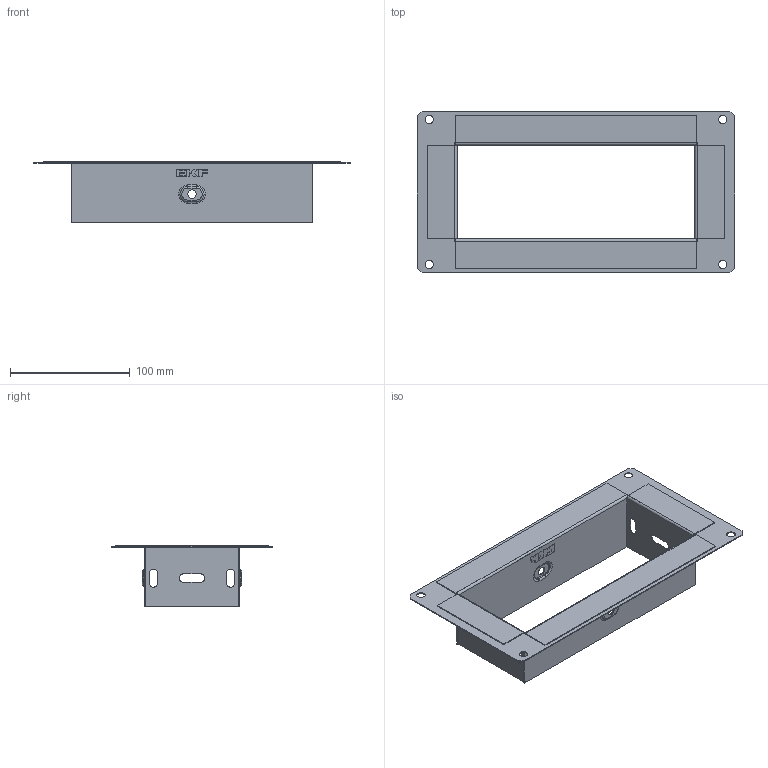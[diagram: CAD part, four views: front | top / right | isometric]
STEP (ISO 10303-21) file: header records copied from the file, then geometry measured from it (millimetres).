
FILE_DESCRIPTION (( 'STEP AP203' ), '1' );
FILE_NAME ('f80200_捘.STEP', '2020-01-23T12:28:57', ( '' ), ( '' ), 'SwSTEP 2.0', 'SolidWorks 2016', '' );
FILE_SCHEMA (( 'CONFIG_CONTROL_DESIGN' ));
Length unit declared in the file: millimetre
Products named in the file (9): f80200_1; f35200_2; f80300_3; f80200_捘
Assembly tree (5 placements, depth 2):
  f80200_1
  f35200_2
  f35200_2
  f80300_3
  f80200_捘
    f80200_1
    f35200_2  x2
    f80300_3  x2
Bounding box: 265 x 135 x 51.5 mm (x, y, z)
Volume: 48335 mm3; surface area: 123602.7 mm2
Topology: 5 solids, 5 shells, 314 faces, 816 edges, 528 vertices
Faces by surface type: plane 216, cylinder 64, bspline 18, torus 16
Entity records: 6402 total; most frequent: CARTESIAN_POINT 1382, ORIENTED_EDGE 876, DIRECTION 840, EDGE_CURVE 438, VECTOR 336, LINE 336, VERTEX_POINT 284, AXIS2_PLACEMENT_3D 252
